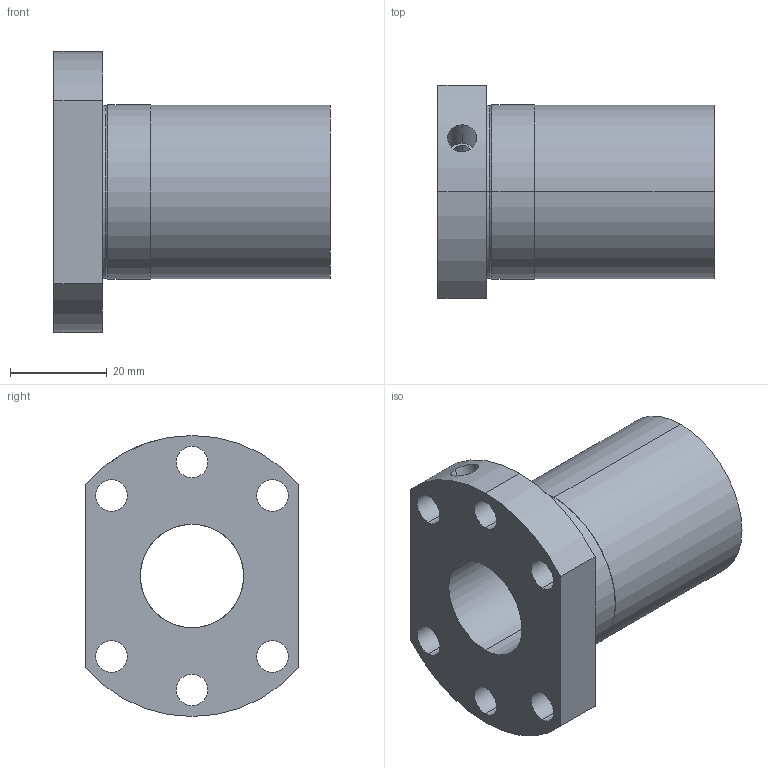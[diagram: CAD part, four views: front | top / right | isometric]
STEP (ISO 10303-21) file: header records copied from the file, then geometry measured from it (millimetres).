
FILE_DESCRIPTION (( 'STEP AP214' ), '1' );
FILE_NAME ('LLE2020-F.STEP', '2020-12-17T06:34:23', ( 'user' ), ( 'datathink' ), 'SwSTEP 2.0', 'SolidWorks 2013', '' );
FILE_SCHEMA (( 'AUTOMOTIVE_DESIGN' ));
Length unit declared in the file: millimetre
Products named in the file (1): LLE2020-F
Bounding box: 57 x 44 x 58 mm (x, y, z)
Volume: 46379.6 mm3; surface area: 16269.7 mm2
Topology: 1 solids, 1 shells, 54 faces, 139 edges, 90 vertices
Faces by surface type: cylinder 35, plane 11, torus 4, cone 2, bspline 2
Entity records: 2567 total; most frequent: CARTESIAN_POINT 1214, DIRECTION 279, ORIENTED_EDGE 278, EDGE_CURVE 139, AXIS2_PLACEMENT_3D 117, VERTEX_POINT 90, EDGE_LOOP 73, CIRCLE 64
